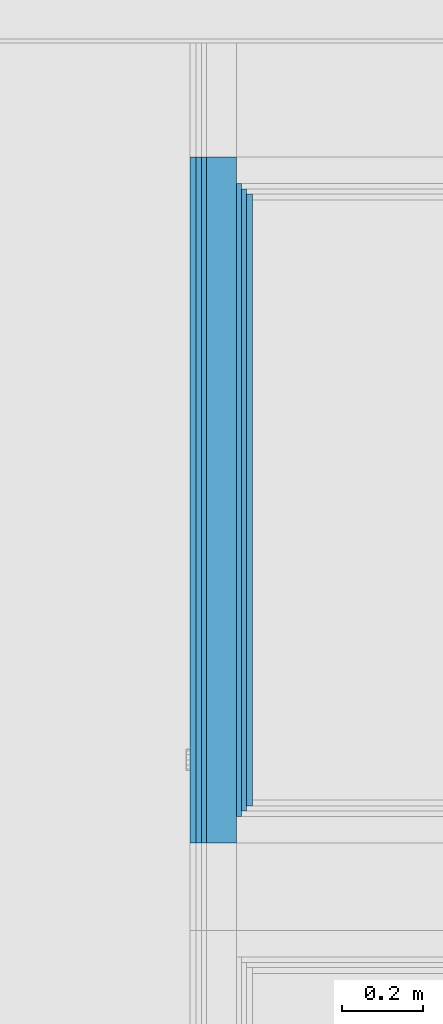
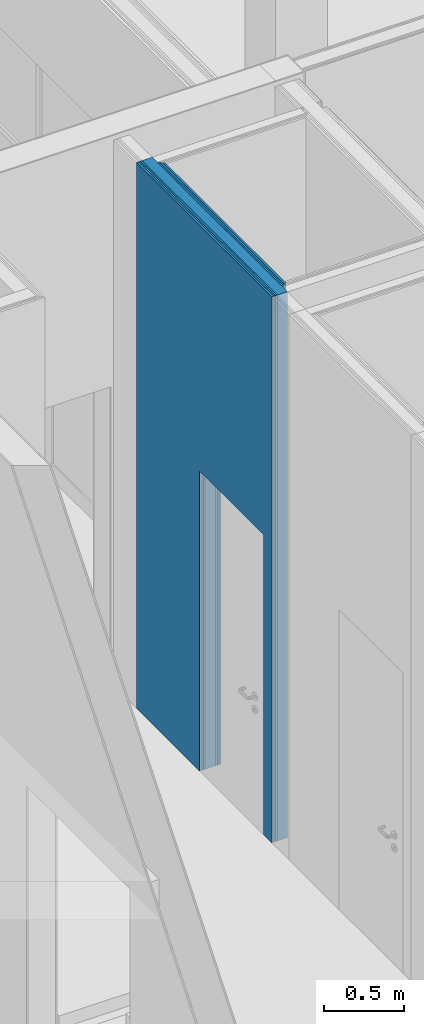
# One storey, part 64 of 260: 7 building element parts, 1 opening, 1 element without a shape of its own.
"""IFC2X3 building model written with IfcOpenShell, lengths in millimetres."""

from ifc_helpers import new_model, entity, si_unit, converted_unit, derived_unit, money_unit, direction, frame, origin_with_axes, place, context, subcontext, project, spatial, faceted_brep, material, type_object, element, aggregate, save


model = new_model("IFC2X3")

# Units and contexts
model_context = context("Model", 3, precision=0.01, world=origin_with_axes(), true_north=direction((0.0, 1.0)))
body_context = subcontext(model_context, "Body", "Model", "MODEL_VIEW")
ifc_project = project(units=[si_unit("LENGTHUNIT", "METRE", prefix="MILLI"), si_unit("AREAUNIT", "SQUARE_METRE"), si_unit("VOLUMEUNIT", "CUBIC_METRE"), converted_unit("PLANEANGLEUNIT", "DEGREE", entity("IfcPlaneAngleMeasure", 0.0174532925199), si_unit("PLANEANGLEUNIT", "RADIAN"), dimensions=[0, 0, 0, 0, 0, 0, 0]), money_unit("EUR"), converted_unit("TIMEUNIT", "Year", entity("IfcTimeMeasure", 31556926.0), si_unit("TIMEUNIT", "SECOND"), dimensions=[0, 0, 1, 0, 0, 0, 0]), si_unit("MASSUNIT", "GRAM", prefix="KILO"), si_unit("THERMODYNAMICTEMPERATUREUNIT", "DEGREE_CELSIUS"), si_unit("LUMINOUSINTENSITYUNIT", "LUMEN"), si_unit("ENERGYUNIT", "JOULE", prefix="MEGA"), derived_unit("THERMALCONDUCTANCEUNIT", [(si_unit("POWERUNIT", "WATT"), 1), (si_unit("LENGTHUNIT", "METRE"), -1), (si_unit("THERMODYNAMICTEMPERATUREUNIT", "KELVIN"), -1)]), derived_unit("SPECIFICHEATCAPACITYUNIT", [(si_unit("ENERGYUNIT", "JOULE"), 1), (si_unit("MASSUNIT", "GRAM", prefix="KILO"), -1), (si_unit("THERMODYNAMICTEMPERATUREUNIT", "KELVIN"), -1)]), derived_unit("MASSDENSITYUNIT", [(si_unit("MASSUNIT", "GRAM", prefix="KILO"), 1), (si_unit("VOLUMEUNIT", "CUBIC_METRE"), -1)])], contexts=[model_context])

# Site, building, storey
site_placement = place(None, origin_with_axes())
site = spatial("IfcSite", under=ifc_project, at=site_placement, Name="Kolde pst 67a", CompositionType="ELEMENT")
building_placement = place(site_placement, origin_with_axes())
building = spatial("IfcBuilding", under=site, at=building_placement, Name="Riigigümnaasium", CompositionType="ELEMENT")
storey_placement = place(building_placement, origin_with_axes())
storey = spatial("IfcBuildingStorey", under=building, at=storey_placement, Name="1. korrus", CompositionType="ELEMENT", Elevation=0.0)

# Wall, opening, building element parts
wall_type = type_object("IfcWallType", Name="SS-MK-7,5/1_plaaditud 155", PredefinedType="NOTDEFINED")
wall_placement = place(storey_placement, frame((66260.8875355, 22243.9999727, 0.0), z_axis=(0.0, 0.0, 1.0), x_axis=(0.0, 1.0, 0.0)))
wall = element("IfcWall", 1, at=wall_placement, inside=storey, type_object=wall_type, Name="Sisesein")
opening_placement = place(wall_placement, frame((506.0, 0.0, 0.0), z_axis=(0.0, 0.0, 1.0), x_axis=(1.0, 0.0, 0.0)))
element("IfcOpeningElement", 2, at=opening_placement, cuts=wall, Name="Siseuks", context=body_context, shape_type="Brep", body=[
    faceted_brep([(400.0, -155.0, 2300.0), (400.0, -155.0, 0.0), (400.0, 310.0, 0.0), (400.0, 310.0, 2300.0), (-400.0, -155.0, 2300.0), (-400.0, -155.0, 0.0), (-400.0, 310.0, 0.0), (-400.0, 310.0, 2300.0)], [[[0, 1, 2, 3]], [[0, 4, 5, 1]], [[1, 5, 6, 2]], [[3, 2, 6, 7]], [[4, 0, 3, 7]], [[5, 4, 7, 6]]]),
])
ifc_material_1 = material(Name="_VIIMISTLUSKIHT - viimistlus vastavalt SA osale")
building_element_part_1_placement = place(wall_placement, origin_with_axes())
building_element_part_1 = element("IfcBuildingElementPart", 3, at=building_element_part_1_placement, material=ifc_material_1, Name="_VIIMISTLUSKIHT - viimistlus vastavalt SA osale", context=body_context, shape_type="Brep", body=[
    faceted_brep([(106.0, -15.0, 0.0), (106.0, -15.0, 2300.0), (906.0, -15.0, 2300.0), (906.0, -15.0, 0.0), (1702.28498275, -15.0, 0.0), (1702.28498275, -15.0, 4185.0), (0.0, -15.0, 4185.0), (0.0, -15.0, 0.0), (106.0, 0.0, 0.0), (106.0, 0.0, 2300.0), (906.0, 0.0, 2300.0), (906.0, 0.0, 0.0), (1702.28498275, 0.0, 0.0), (1702.28498275, 0.0, 4185.0), (0.0, 0.0, 4185.0), (0.0, 0.0, 0.0)], [[[0, 1, 2, 3, 4, 5, 6, 7]], [[1, 0, 8, 9]], [[2, 1, 9, 10]], [[3, 2, 10, 11]], [[3, 11, 12, 4]], [[5, 4, 12, 13]], [[5, 13, 14, 6]], [[14, 15, 7, 6]], [[8, 0, 7, 15]], [[9, 8, 15, 14, 13, 12, 11, 10]]]),
])
ifc_material_2 = material(Name="_PLAATMATERJAL - kipsplaat veekindel")
building_element_part_2_placement = place(wall_placement, origin_with_axes())
building_element_part_2 = element("IfcBuildingElementPart", 4, at=building_element_part_2_placement, material=ifc_material_2, Name="_PLAATMATERJAL - kipsplaat veekindel", context=body_context, shape_type="Brep", body=[
    faceted_brep([(106.0, -27.5, 0.0), (106.0, -27.5, 2300.0), (906.0, -27.5, 2300.0), (906.0, -27.5, 0.0), (1702.28498275, -27.5, 0.0), (1702.28498275, -27.5, 4185.0), (0.0, -27.5, 4185.0), (0.0, -27.5, 0.0), (106.0, -15.0, 0.0), (106.0, -15.0, 2300.0), (906.0, -15.0, 2300.0), (906.0, -15.0, 0.0), (1702.28498275, -15.0, 0.0), (1702.28498275, -15.0, 4185.0), (0.0, -15.0, 4185.0), (0.0, -15.0, 0.0)], [[[0, 1, 2, 3, 4, 5, 6, 7]], [[1, 0, 8, 9]], [[2, 1, 9, 10]], [[3, 2, 10, 11]], [[3, 11, 12, 4]], [[5, 4, 12, 13]], [[5, 13, 14, 6]], [[14, 15, 7, 6]], [[8, 0, 7, 15]], [[9, 8, 15, 14, 13, 12, 11, 10]]]),
])
building_element_part_3_placement = place(wall_placement, origin_with_axes())
building_element_part_3 = element("IfcBuildingElementPart", 5, at=building_element_part_3_placement, material=ifc_material_2, Name="_PLAATMATERJAL - kipsplaat veekindel", context=body_context, shape_type="Brep", body=[
    faceted_brep([(106.0, -40.0, 0.0), (106.0, -40.0, 2300.0), (906.0, -40.0, 2300.0), (906.0, -40.0, 0.0), (1702.28498275, -40.0, 0.0), (1702.28498275, -40.0, 4185.0), (0.0, -40.0, 4185.0), (0.0, -40.0, 0.0), (106.0, -27.5, 0.0), (106.0, -27.5, 2300.0), (906.0, -27.5, 2300.0), (906.0, -27.5, 0.0), (1702.28498275, -27.5, 0.0), (1702.28498275, -27.5, 4185.0), (0.0, -27.5, 4185.0), (0.0, -27.5, 0.0)], [[[0, 1, 2, 3, 4, 5, 6, 7]], [[1, 0, 8, 9]], [[2, 1, 9, 10]], [[3, 2, 10, 11]], [[3, 11, 12, 4]], [[5, 4, 12, 13]], [[5, 13, 14, 6]], [[14, 15, 7, 6]], [[8, 0, 7, 15]], [[9, 8, 15, 14, 13, 12, 11, 10]]]),
])
ifc_material_3 = material(Name="_KARKASS - metallkarkass CW 75/50, mineraalvill karkassi vahel")
building_element_part_4_placement = place(wall_placement, origin_with_axes())
building_element_part_4 = element("IfcBuildingElementPart", 6, at=building_element_part_4_placement, material=ifc_material_3, Name="_KARKASS - metallkarkass CW 75/50, mineraalvill karkassi vahel", context=body_context, shape_type="Brep", body=[
    faceted_brep([(106.0, -115.0, 0.0), (106.0, -115.0, 2300.0), (906.0, -115.0, 2300.0), (906.0, -115.0, 0.0), (1702.28498275, -115.0, 0.0), (1702.28498275, -115.0, 4185.0), (0.0, -115.0, 4185.0), (0.0, -115.0, 0.0), (106.0, -40.0, 0.0), (106.0, -40.0, 2300.0), (906.0, -40.0, 2300.0), (906.0, -40.0, 0.0), (1702.28498275, -40.0, 0.0), (1702.28498275, -40.0, 4185.0), (0.0, -40.0, 4185.0), (0.0, -40.0, 0.0)], [[[0, 1, 2, 3, 4, 5, 6, 7]], [[1, 0, 8, 9]], [[2, 1, 9, 10]], [[3, 2, 10, 11]], [[3, 11, 12, 4]], [[5, 4, 12, 13]], [[5, 13, 14, 6]], [[14, 15, 7, 6]], [[8, 0, 7, 15]], [[9, 8, 15, 14, 13, 12, 11, 10]]]),
])
building_element_part_5_placement = place(wall_placement, origin_with_axes())
building_element_part_5 = element("IfcBuildingElementPart", 7, at=building_element_part_5_placement, material=ifc_material_2, Name="_PLAATMATERJAL - kipsplaat veekindel", context=body_context, shape_type="Brep", body=[
    faceted_brep([(106.0, -127.5, 0.0), (106.0, -127.5, 2300.0), (906.0, -127.5, 2300.0), (906.0, -127.5, 0.0), (1636.28499184, -127.5, 0.0), (1636.28499184, -127.5, 4185.0), (66.0, -127.5, 4185.0), (66.0, -127.5, 0.0), (106.0, -115.0, 0.0), (106.0, -115.0, 2300.0), (906.0, -115.0, 2300.0), (906.0, -115.0, 0.0), (1636.28498275, -115.0, 0.0), (1636.28498275, -115.0, 4185.0), (66.0, -115.0, 4185.0), (66.0, -115.0, 0.0)], [[[0, 1, 2, 3, 4, 5, 6, 7]], [[1, 0, 8, 9]], [[2, 1, 9, 10]], [[3, 2, 10, 11]], [[3, 11, 12, 4]], [[5, 4, 12, 13]], [[5, 13, 14, 6]], [[14, 15, 7, 6]], [[8, 0, 7, 15]], [[9, 8, 15, 14, 13, 12, 11, 10]]]),
])
building_element_part_6_placement = place(wall_placement, origin_with_axes())
building_element_part_6 = element("IfcBuildingElementPart", 8, at=building_element_part_6_placement, material=ifc_material_2, Name="_PLAATMATERJAL - kipsplaat veekindel", context=body_context, shape_type="Brep", body=[
    faceted_brep([(106.0, -140.0, 0.0), (106.0, -140.0, 2300.0), (906.0, -140.0, 2300.0), (906.0, -140.0, 0.0), (1623.78500093, -140.0, 0.0), (1623.78500093, -140.0, 4185.0), (78.5, -140.0, 4185.0), (78.5, -140.0, 0.0), (106.0, -127.5, 0.0), (106.0, -127.5, 2300.0), (906.0, -127.5, 2300.0), (906.0, -127.5, 0.0), (1623.78499184, -127.5, 0.0), (1623.78499184, -127.5, 4185.0), (78.5, -127.5, 4185.0), (78.5, -127.5, 0.0)], [[[0, 1, 2, 3, 4, 5, 6, 7]], [[1, 0, 8, 9]], [[2, 1, 9, 10]], [[3, 2, 10, 11]], [[3, 11, 12, 4]], [[5, 4, 12, 13]], [[5, 13, 14, 6]], [[14, 15, 7, 6]], [[8, 0, 7, 15]], [[9, 8, 15, 14, 13, 12, 11, 10]]]),
])
building_element_part_7_placement = place(wall_placement, origin_with_axes())
building_element_part_7 = element("IfcBuildingElementPart", 9, at=building_element_part_7_placement, material=ifc_material_1, Name="_VIIMISTLUSKIHT - viimistlus vastavalt SA osale", context=body_context, shape_type="Brep", body=[
    faceted_brep([(106.0, -155.0, 0.0), (106.0, -155.0, 2300.0), (906.0, -155.0, 2300.0), (906.0, -155.0, 0.0), (1611.28501184, -155.0, 0.0), (1611.28501184, -155.0, 4185.0), (91.0, -155.0, 4185.0), (91.0, -155.0, 0.0), (106.0, -140.0, 0.0), (106.0, -140.0, 2300.0), (906.0, -140.0, 2300.0), (906.0, -140.0, 0.0), (1611.28500093, -140.0, 0.0), (1611.28500093, -140.0, 4185.0), (91.0, -140.0, 4185.0), (91.0, -140.0, 0.0)], [[[0, 1, 2, 3, 4, 5, 6, 7]], [[1, 0, 8, 9]], [[2, 1, 9, 10]], [[3, 2, 10, 11]], [[3, 11, 12, 4]], [[5, 4, 12, 13]], [[5, 13, 14, 6]], [[14, 15, 7, 6]], [[8, 0, 7, 15]], [[9, 8, 15, 14, 13, 12, 11, 10]]]),
])
aggregate(wall, [building_element_part_1, building_element_part_2, building_element_part_3, building_element_part_4, building_element_part_5, building_element_part_6, building_element_part_7])

save(model, "model.ifc")
